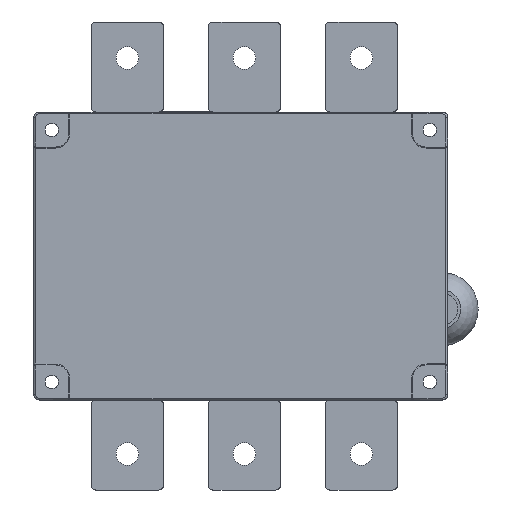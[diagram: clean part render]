
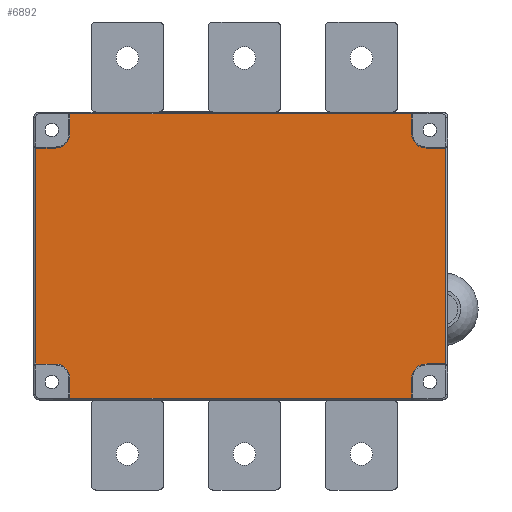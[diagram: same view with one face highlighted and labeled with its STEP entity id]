
A CAD part, front view. The second image highlights one B-rep face of the part: STEP entity #6892.
In plain terms, the highlighted planar face has unit normal (0, -1, 0).
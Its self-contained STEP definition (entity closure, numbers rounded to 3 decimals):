
#2736=DIRECTION('',(-1.,0.,0.));
#2737=VECTOR('',#2736,11.);
#2738=CARTESIAN_POINT('',(-103.,2.,60.));
#2739=LINE('',#2738,#2737);
#3754=DIRECTION('',(0.,0.,-1.));
#3755=VECTOR('',#3754,120.);
#3756=CARTESIAN_POINT('',(-114.,2.,60.));
#3757=LINE('',#3756,#3755);
#3771=CARTESIAN_POINT('',(103.,2.,68.));
#3772=DIRECTION('',(0.,-1.,0.));
#3773=DIRECTION('',(-1.,0.,0.));
#3774=AXIS2_PLACEMENT_3D('',#3771,#3772,#3773);
#3776=CARTESIAN_POINT('',(103.,2.,-68.));
#3777=DIRECTION('',(0.,-1.,0.));
#3778=DIRECTION('',(0.,0.,1.));
#3779=AXIS2_PLACEMENT_3D('',#3776,#3777,#3778);
#3781=CARTESIAN_POINT('',(-103.,2.,-68.));
#3782=DIRECTION('',(0.,-1.,0.));
#3783=DIRECTION('',(1.,0.,0.));
#3784=AXIS2_PLACEMENT_3D('',#3781,#3782,#3783);
#3786=CARTESIAN_POINT('',(-103.,2.,68.));
#3787=DIRECTION('',(0.,-1.,0.));
#3788=DIRECTION('',(0.,0.,-1.));
#3789=AXIS2_PLACEMENT_3D('',#3786,#3787,#3788);
#3791=DIRECTION('',(-1.,0.,0.));
#3792=VECTOR('',#3791,190.);
#3793=CARTESIAN_POINT('',(95.,2.,79.));
#3794=LINE('',#3793,#3792);
#4152=DIRECTION('',(0.,0.,1.));
#4153=VECTOR('',#4152,120.);
#4154=CARTESIAN_POINT('',(114.,2.,-60.));
#4155=LINE('',#4154,#4153);
#4156=CARTESIAN_POINT('',(114.,2.,60.));
#4186=DIRECTION('',(1.,0.,0.));
#4187=VECTOR('',#4186,11.);
#4188=CARTESIAN_POINT('',(103.,2.,-60.));
#4189=LINE('',#4188,#4187);
#4299=DIRECTION('',(0.,0.,1.));
#4300=VECTOR('',#4299,11.);
#4301=CARTESIAN_POINT('',(95.,2.,-79.));
#4302=LINE('',#4301,#4300);
#4311=DIRECTION('',(1.,0.,0.));
#4312=VECTOR('',#4311,190.);
#4313=CARTESIAN_POINT('',(-95.,2.,
-79.));
#4314=LINE('',#4313,#4312);
#4345=DIRECTION('',(0.,0.,-1.));
#4346=VECTOR('',#4345,11.);
#4347=CARTESIAN_POINT('',(-95.,2.,-68.));
#4348=LINE('',#4347,#4346);
#4357=DIRECTION('',(1.,0.,0.));
#4358=VECTOR('',#4357,11.);
#4359=CARTESIAN_POINT('',(-114.,2.,
-60.));
#4360=LINE('',#4359,#4358);
#4470=DIRECTION('',(-1.,0.,0.));
#4471=VECTOR('',#4470,11.);
#4472=CARTESIAN_POINT('',(114.,2.,60.));
#4473=LINE('',#4472,#4471);
#4482=DIRECTION('',(0.,0.,1.));
#4483=VECTOR('',#4482,11.);
#4484=CARTESIAN_POINT('',(95.,2.,68.));
#4485=LINE('',#4484,#4483);
#4511=DIRECTION('',(0.,0.,-1.));
#4512=VECTOR('',#4511,11.);
#4513=CARTESIAN_POINT('',(-95.,2.,79.));
#4514=LINE('',#4513,#4512);
#4776=CARTESIAN_POINT('',(-114.,2.,60.));
#4778=VERTEX_POINT('',#4776);
#4781=CARTESIAN_POINT('',(-103.,2.,60.));
#4782=VERTEX_POINT('',#4781);
#5139=VERTEX_POINT('',#4156);
#5140=CARTESIAN_POINT('',(114.,2.,-60.));
#5141=VERTEX_POINT('',#5140);
#5142=CARTESIAN_POINT('',(95.,2.,79.));
#5143=CARTESIAN_POINT('',(-95.,2.,79.));
#5144=VERTEX_POINT('',#5142);
#5145=VERTEX_POINT('',#5143);
#5146=CARTESIAN_POINT('',(95.,2.,68.));
#5147=VERTEX_POINT('',#5146);
#5148=CARTESIAN_POINT('',(103.,2.,60.));
#5149=VERTEX_POINT('',#5148);
#5150=CARTESIAN_POINT('',(103.,2.,-60.));
#5151=VERTEX_POINT('',#5150);
#5152=CARTESIAN_POINT('',(95.,2.,-68.));
#5153=VERTEX_POINT('',#5152);
#5154=CARTESIAN_POINT('',(95.,2.,-79.));
#5155=VERTEX_POINT('',#5154);
#5156=CARTESIAN_POINT('',(-95.,2.,
-79.));
#5157=VERTEX_POINT('',#5156);
#5158=CARTESIAN_POINT('',(-95.,2.,-68.));
#5159=VERTEX_POINT('',#5158);
#5160=CARTESIAN_POINT('',(-103.,2.,-60.));
#5161=VERTEX_POINT('',#5160);
#5162=CARTESIAN_POINT('',(-114.,2.,
-60.));
#5163=VERTEX_POINT('',#5162);
#5164=CARTESIAN_POINT('',(-95.,2.,68.));
#5165=VERTEX_POINT('',#5164);
#6855=CARTESIAN_POINT('',(0.,2.,0.));
#6856=DIRECTION('',(0.,-1.,0.));
#6857=DIRECTION('',(-1.,0.,0.));
#6858=AXIS2_PLACEMENT_3D('',#6855,#6856,#6857);
#6859=PLANE('',#6858);
#6861=ORIENTED_EDGE('',*,*,#6860,.F.);
#6863=ORIENTED_EDGE('',*,*,#6862,.F.);
#6865=ORIENTED_EDGE('',*,*,#6864,.T.);
#6867=ORIENTED_EDGE('',*,*,#6866,.F.);
#6869=ORIENTED_EDGE('',*,*,#6868,.F.);
#6871=ORIENTED_EDGE('',*,*,#6870,.F.);
#6873=ORIENTED_EDGE('',*,*,#6872,.T.);
#6875=ORIENTED_EDGE('',*,*,#6874,.F.);
#6877=ORIENTED_EDGE('',*,*,#6876,.F.);
#6879=ORIENTED_EDGE('',*,*,#6878,.F.);
#6881=ORIENTED_EDGE('',*,*,#6880,.T.);
#6883=ORIENTED_EDGE('',*,*,#6882,.F.);
#6884=ORIENTED_EDGE('',*,*,#6847,.F.);
#6885=ORIENTED_EDGE('',*,*,#5387,.F.);
#6887=ORIENTED_EDGE('',*,*,#6886,.T.);
#6889=ORIENTED_EDGE('',*,*,#6888,.F.);
#6890=EDGE_LOOP('',(#6861,#6863,#6865,#6867,#6869,#6871,#6873,#6875,#6877,#6879,
#6881,#6883,#6884,#6885,#6887,#6889));
#6891=FACE_OUTER_BOUND('',#6890,.F.);
#3775=CIRCLE('',#3774,8.);
#3780=CIRCLE('',#3779,8.);
#3785=CIRCLE('',#3784,8.);
#3790=CIRCLE('',#3789,8.);
#5387=EDGE_CURVE('',#4782,#4778,#2739,.T.);
#6847=EDGE_CURVE('',#4778,#5163,#3757,.T.);
#6860=EDGE_CURVE('',#5144,#5145,#3794,.T.);
#6862=EDGE_CURVE('',#5147,#5144,#4485,.T.);
#6864=EDGE_CURVE('',#5147,#5149,#3775,.T.);
#6866=EDGE_CURVE('',#5139,#5149,#4473,.T.);
#6868=EDGE_CURVE('',#5141,#5139,#4155,.T.);
#6870=EDGE_CURVE('',#5151,#5141,#4189,.T.);
#6872=EDGE_CURVE('',#5151,#5153,#3780,.T.);
#6874=EDGE_CURVE('',#5155,#5153,#4302,.T.);
#6876=EDGE_CURVE('',#5157,#5155,#4314,.T.);
#6878=EDGE_CURVE('',#5159,#5157,#4348,.T.);
#6880=EDGE_CURVE('',#5159,#5161,#3785,.T.);
#6882=EDGE_CURVE('',#5163,#5161,#4360,.T.);
#6886=EDGE_CURVE('',#4782,#5165,#3790,.T.);
#6888=EDGE_CURVE('',#5145,#5165,#4514,.T.);
#6892=ADVANCED_FACE('',(#6891),#6859,.T.);
